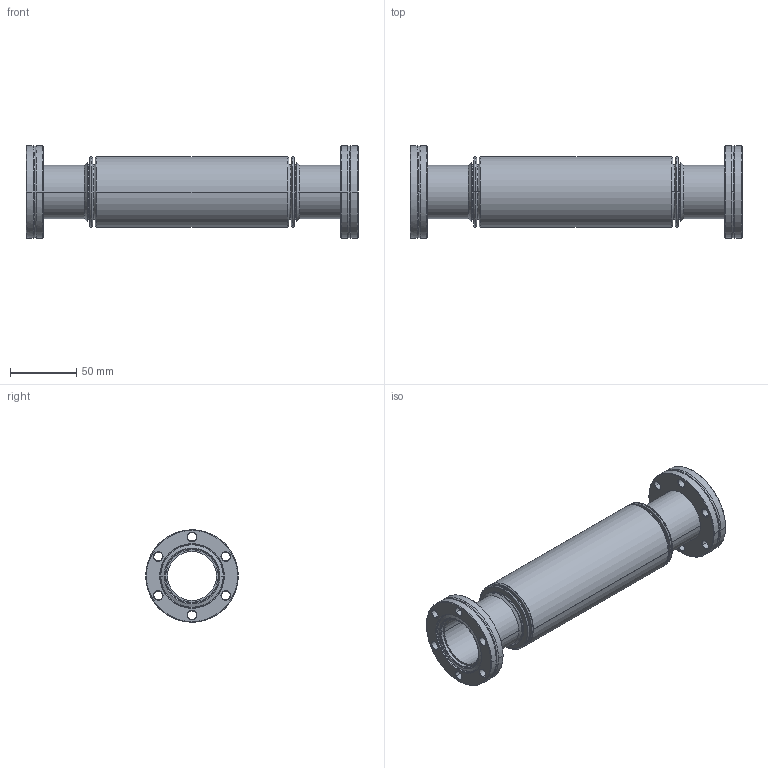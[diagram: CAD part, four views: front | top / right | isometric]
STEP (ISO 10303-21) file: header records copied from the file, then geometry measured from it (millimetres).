
FILE_DESCRIPTION((''),'2;1');
FILE_NAME('N:\Transfer\Berger Martin\Leybold\C15\88557.stp','2005-02-07T09:32:56',('VCRC_L'),(''),'Autodesk Inventor 9','Autodesk Inventor 9','');
FILE_SCHEMA(('AUTOMOTIVE_DESIGN { 1 0 10303 214 1 1 1 1 }'));
Length unit declared in the file: millimetre
Products named in the file (1): 88557
Bounding box: 250 x 69.5 x 69.5 mm (x, y, z)
Volume: 81436.1 mm3; surface area: 105837.9 mm2
Topology: 1 solids, 1 shells, 247 faces, 587 edges, 367 vertices
Faces by surface type: cone 78, bspline 64, torus 40, cylinder 38, plane 27
Entity records: 9375 total; most frequent: CARTESIAN_POINT 3458, DIRECTION 1386, ORIENTED_EDGE 1174, AXIS2_PLACEMENT_3D 623, EDGE_CURVE 587, CIRCLE 439, VERTEX_POINT 367, EDGE_LOOP 298
